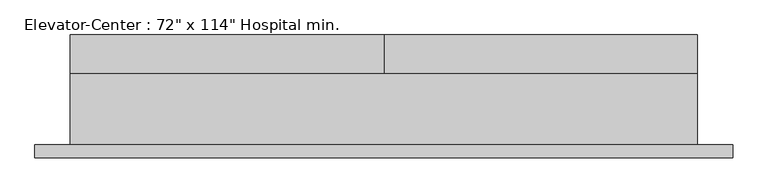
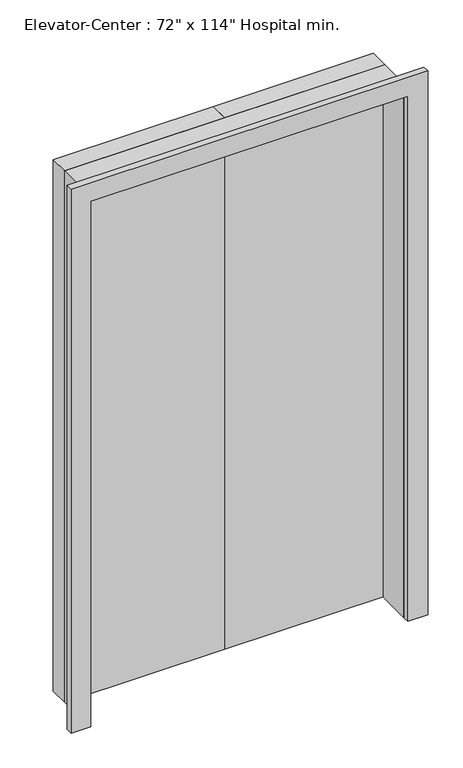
"""IFC4 building model written with IfcOpenShell, lengths in millimetres: proxy geometry."""

from ifc_helpers import new_model, si_unit, frame, origin, origin_with_axes, place, context, project, spatial, polyline, outline, extrude, source, transform, mapped, element, save


def proxy_ae548678(model_context):
    return source(origin(), model_context, "Body", "SweptSolid", [
        extrude(outline(polyline([(0.0, -715.0856443), (0.0, -708.7356443), (2133.6, -708.7356443), (2133.6, 510.4643557), (0.0, 510.4643557), (0.0, 516.8143557), (2159.0, 516.8143557), (2159.0, -715.0856443), (0.0, -715.0856443)])), frame((0.0, -69.85, 0.0), z_axis=(0.0, 1.0, 0.0), x_axis=(0.0, 0.0, 1.0)), (0.0, 0.0, 1.0), 139.7),
        extrude(outline(polyline([(0.0, -784.9356443), (0.0, -708.7356443), (2133.6, -708.7356443), (2133.6, 510.4643557), (0.0, 510.4643557), (0.0, 586.6643557), (2209.8, 586.6643557), (2209.8, -784.9356443), (0.0, -784.9356443)])), frame((0.0, -95.25, 0.0), z_axis=(0.0, 1.0, 0.0), x_axis=(0.0, 0.0, 1.0)), (0.0, 0.0, 1.0), 25.4),
        extrude(outline(polyline([(-99.1356443, 69.85), (-715.0856443, 69.85), (-715.0856443, 146.05), (-99.1356443, 146.05), (-99.1356443, 69.85)])), origin_with_axes(), (0.0, 0.0, 1.0), 2159.0),
        extrude(outline(polyline([(516.8143557, 69.85), (-99.1356443, 69.85), (-99.1356443, 146.05), (516.8143557, 146.05), (516.8143557, 69.85)])), origin_with_axes(), (0.0, 0.0, 1.0), 2159.0),
    ])


if __name__ == "__main__":
    model = new_model("IFC4")
    model_context = context("Model", 3, world=origin())
    ifc_project = project(units=[si_unit("LENGTHUNIT", "METRE", prefix="MILLI")], contexts=[model_context])
    site = spatial("IfcSite", under=ifc_project)
    building = spatial("IfcBuilding", under=site)
    placement = place(None, origin())
    proxy_shape = proxy_ae548678(model_context)
    element("IfcBuildingElementProxy", 1, Name="Elevator-Center : 72\" x 114\" Hospital min.", ObjectType="Elevator-Center : 72\" x 114\" Hospital min.", at=placement, inside=building, context=model_context, shape_type="MappedRepresentation", body=[
        mapped(proxy_shape, transform((0.0, 0.0, 0.0), x_axis=(1.0, 0.0, 0.0), y_axis=(0.0, 1.0, 0.0), z_axis=(0.0, 0.0, 1.0))),
    ])
    save(model, "model.ifc")
